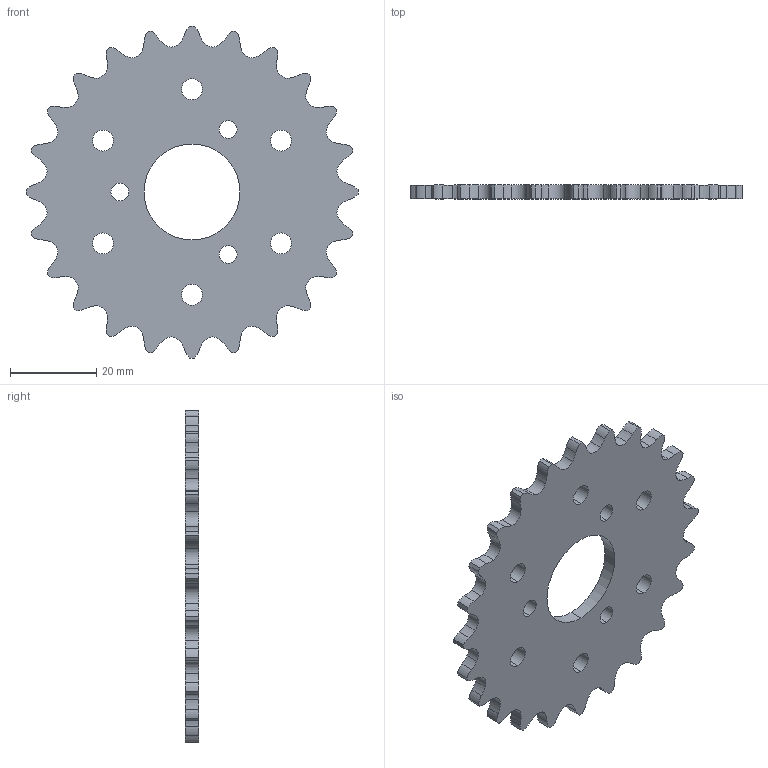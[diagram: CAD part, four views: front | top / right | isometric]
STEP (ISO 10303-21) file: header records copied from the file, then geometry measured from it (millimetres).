
FILE_DESCRIPTION (( 'STEP AP203' ), '1' );
FILE_NAME ('IFI-SPROCKET-35A24 RevB.STEP', '2006-11-03T17:40:25', ( 'Innovation First, Inc.' ), ( 'Innovation First, Inc.' ), 'SwSTEP 2.0', 'SolidWorks 2006052', '' );
FILE_SCHEMA (( 'CONFIG_CONTROL_DESIGN' ));
Length unit declared in the file: inch
Products named in the file (1): IFI-SPROCKET-35A24 RevB
Bounding box: 76.92 x 3.17 x 76.92 mm (x, y, z)
Volume: 11098.4 mm3; surface area: 8696.1 mm2
Topology: 1 solids, 1 shells, 178 faces, 528 edges, 352 vertices
Faces by surface type: cylinder 152, plane 26
Entity records: 6255 total; most frequent: DIRECTION 1190, CARTESIAN_POINT 1059, ORIENTED_EDGE 1056, EDGE_CURVE 528, AXIS2_PLACEMENT_3D 483, VERTEX_POINT 352, CIRCLE 304, VECTOR 224
